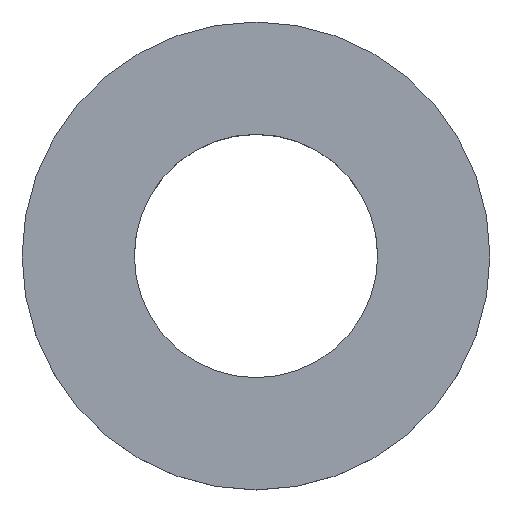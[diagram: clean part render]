
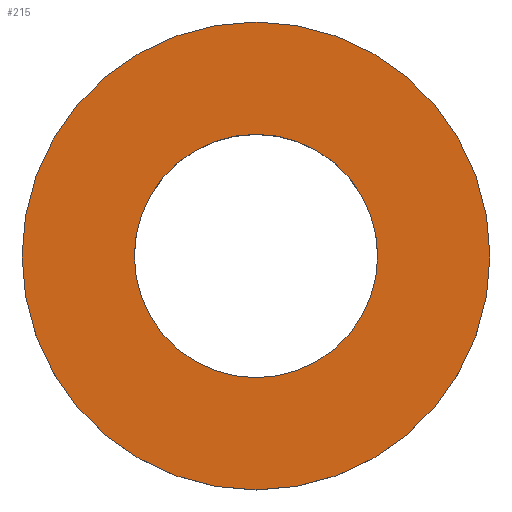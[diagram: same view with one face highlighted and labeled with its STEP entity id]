
A CAD part, top view. The second image highlights one B-rep face of the part: STEP entity #215.
In plain terms, the highlighted planar face has unit normal (0, 0, 1).
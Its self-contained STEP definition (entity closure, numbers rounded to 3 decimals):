
#161=CARTESIAN_POINT('',(3.302,0.,0.914));
#162=VERTEX_POINT('',#161);
#163=CARTESIAN_POINT('',(0.0,0.0,0.914));
#164=DIRECTION('',(0.0,0.0,-1.0));
#165=DIRECTION('',(-1.0,0.0,0.0));
#166=AXIS2_PLACEMENT_3D('',#163,#164,#165);
#167=CIRCLE('',#166,3.302);
#168=EDGE_CURVE('',#162,#162,#167,.T.);
#189=CARTESIAN_POINT('',(6.35,0.,0.914));
#190=VERTEX_POINT('',#189);
#191=CARTESIAN_POINT('',(0.0,0.0,0.914));
#192=DIRECTION('',(0.0,0.0,-1.0));
#193=DIRECTION('',(-1.0,0.0,0.0));
#194=AXIS2_PLACEMENT_3D('',#191,#192,#193);
#195=CIRCLE('',#194,6.35);
#196=EDGE_CURVE('',#190,#190,#195,.T.);
#204=CARTESIAN_POINT('',(0.0,0.0,0.914));
#205=DIRECTION('',(0.0,0.0,-1.0));
#206=DIRECTION('',(-1.0,0.0,0.0));
#207=AXIS2_PLACEMENT_3D('',#204,#205,#206);
#208=PLANE('',#207);
#209=ORIENTED_EDGE('',*,*,#196,.F.);
#210=EDGE_LOOP('',(#209));
#211=FACE_OUTER_BOUND('',#210,.T.);
#212=ORIENTED_EDGE('',*,*,#168,.T.);
#213=EDGE_LOOP('',(#212));
#214=FACE_BOUND('',#213,.T.);
#215=ADVANCED_FACE('',(#211,#214),#208,.F.);
